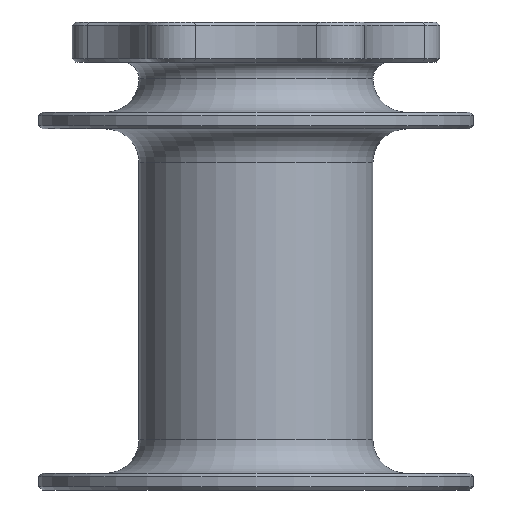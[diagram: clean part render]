
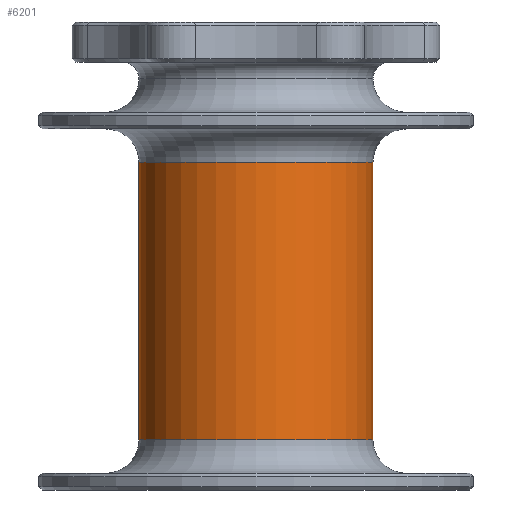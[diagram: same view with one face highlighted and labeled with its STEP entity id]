
A CAD part, front view. The second image highlights one B-rep face of the part: STEP entity #6201.
In plain terms, the highlighted cylindrical face has radius 35 mm (diameter 70 mm), a full revolution.
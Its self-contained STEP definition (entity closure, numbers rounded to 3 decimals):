
#5290 = TOROIDAL_SURFACE('',#5291,45.,10.);
#5291 = AXIS2_PLACEMENT_3D('',#5292,#5293,#5294);
#5292 = CARTESIAN_POINT('',(0.,0.,98.));
#5293 = DIRECTION('',(0.,0.,1.));
#5294 = DIRECTION('',(1.,0.,-0.));
#6002 = VERTEX_POINT('',#6003);
#6003 = CARTESIAN_POINT('',(35.,0.,98.));
#6025 = EDGE_CURVE('',#6002,#6002,#6026,.T.);
#6026 = SURFACE_CURVE('',#6027,(#6032,#6039),.PCURVE_S1.);
#6027 = CIRCLE('',#6028,35.);
#6028 = AXIS2_PLACEMENT_3D('',#6029,#6030,#6031);
#6029 = CARTESIAN_POINT('',(0.,0.,98.));
#6030 = DIRECTION('',(0.,0.,1.));
#6031 = DIRECTION('',(1.,0.,-0.));
#6032 = PCURVE('',#5290,#6033);
#6033 = DEFINITIONAL_REPRESENTATION('',(#6034),#6038);
#6034 = LINE('',#6035,#6036);
#6035 = CARTESIAN_POINT('',(0.,3.142));
#6036 = VECTOR('',#6037,1.);
#6037 = DIRECTION('',(1.,0.));
#6038 = ( GEOMETRIC_REPRESENTATION_CONTEXT(2) 
PARAMETRIC_REPRESENTATION_CONTEXT() REPRESENTATION_CONTEXT('2D SPACE',''
  ) );
#6039 = PCURVE('',#6040,#6045);
#6040 = CYLINDRICAL_SURFACE('',#6041,35.);
#6041 = AXIS2_PLACEMENT_3D('',#6042,#6043,#6044);
#6042 = CARTESIAN_POINT('',(0.,0.,15.));
#6043 = DIRECTION('',(0.,0.,1.));
#6044 = DIRECTION('',(1.,0.,-0.));
#6045 = DEFINITIONAL_REPRESENTATION('',(#6046),#6050);
#6046 = LINE('',#6047,#6048);
#6047 = CARTESIAN_POINT('',(0.,83.));
#6048 = VECTOR('',#6049,1.);
#6049 = DIRECTION('',(1.,0.));
#6050 = ( GEOMETRIC_REPRESENTATION_CONTEXT(2) 
PARAMETRIC_REPRESENTATION_CONTEXT() REPRESENTATION_CONTEXT('2D SPACE',''
  ) );
#6178 = TOROIDAL_SURFACE('',#6179,45.,10.);
#6179 = AXIS2_PLACEMENT_3D('',#6180,#6181,#6182);
#6180 = CARTESIAN_POINT('',(0.,0.,15.));
#6181 = DIRECTION('',(0.,0.,1.));
#6182 = DIRECTION('',(1.,0.,-0.));
#6201 = ADVANCED_FACE('',(#6202),#6040,.T.);
#6202 = FACE_BOUND('',#6203,.T.);
#6203 = EDGE_LOOP('',(#6204,#6228,#6249,#6250));
#6204 = ORIENTED_EDGE('',*,*,#6205,.T.);
#6205 = EDGE_CURVE('',#6206,#6206,#6208,.T.);
#6206 = VERTEX_POINT('',#6207);
#6207 = CARTESIAN_POINT('',(35.,0.,15.));
#6208 = SURFACE_CURVE('',#6209,(#6214,#6221),.PCURVE_S1.);
#6209 = CIRCLE('',#6210,35.);
#6210 = AXIS2_PLACEMENT_3D('',#6211,#6212,#6213);
#6211 = CARTESIAN_POINT('',(0.,0.,15.));
#6212 = DIRECTION('',(0.,0.,1.));
#6213 = DIRECTION('',(1.,0.,-0.));
#6214 = PCURVE('',#6040,#6215);
#6215 = DEFINITIONAL_REPRESENTATION('',(#6216),#6220);
#6216 = LINE('',#6217,#6218);
#6217 = CARTESIAN_POINT('',(0.,0.));
#6218 = VECTOR('',#6219,1.);
#6219 = DIRECTION('',(1.,0.));
#6220 = ( GEOMETRIC_REPRESENTATION_CONTEXT(2) 
PARAMETRIC_REPRESENTATION_CONTEXT() REPRESENTATION_CONTEXT('2D SPACE',''
  ) );
#6221 = PCURVE('',#6178,#6222);
#6222 = DEFINITIONAL_REPRESENTATION('',(#6223),#6227);
#6223 = LINE('',#6224,#6225);
#6224 = CARTESIAN_POINT('',(0.,3.142));
#6225 = VECTOR('',#6226,1.);
#6226 = DIRECTION('',(1.,0.));
#6227 = ( GEOMETRIC_REPRESENTATION_CONTEXT(2) 
PARAMETRIC_REPRESENTATION_CONTEXT() REPRESENTATION_CONTEXT('2D SPACE',''
  ) );
#6228 = ORIENTED_EDGE('',*,*,#6229,.T.);
#6229 = EDGE_CURVE('',#6206,#6002,#6230,.T.);
#6230 = SEAM_CURVE('',#6231,(#6235,#6242),.PCURVE_S1.);
#6231 = LINE('',#6232,#6233);
#6232 = CARTESIAN_POINT('',(35.,0.,15.));
#6233 = VECTOR('',#6234,1.);
#6234 = DIRECTION('',(0.,0.,1.));
#6235 = PCURVE('',#6040,#6236);
#6236 = DEFINITIONAL_REPRESENTATION('',(#6237),#6241);
#6237 = LINE('',#6238,#6239);
#6238 = CARTESIAN_POINT('',(6.283,0.));
#6239 = VECTOR('',#6240,1.);
#6240 = DIRECTION('',(0.,1.));
#6241 = ( GEOMETRIC_REPRESENTATION_CONTEXT(2) 
PARAMETRIC_REPRESENTATION_CONTEXT() REPRESENTATION_CONTEXT('2D SPACE',''
  ) );
#6242 = PCURVE('',#6040,#6243);
#6243 = DEFINITIONAL_REPRESENTATION('',(#6244),#6248);
#6244 = LINE('',#6245,#6246);
#6245 = CARTESIAN_POINT('',(0.,0.));
#6246 = VECTOR('',#6247,1.);
#6247 = DIRECTION('',(0.,1.));
#6248 = ( GEOMETRIC_REPRESENTATION_CONTEXT(2) 
PARAMETRIC_REPRESENTATION_CONTEXT() REPRESENTATION_CONTEXT('2D SPACE',''
  ) );
#6249 = ORIENTED_EDGE('',*,*,#6025,.F.);
#6250 = ORIENTED_EDGE('',*,*,#6229,.F.);
